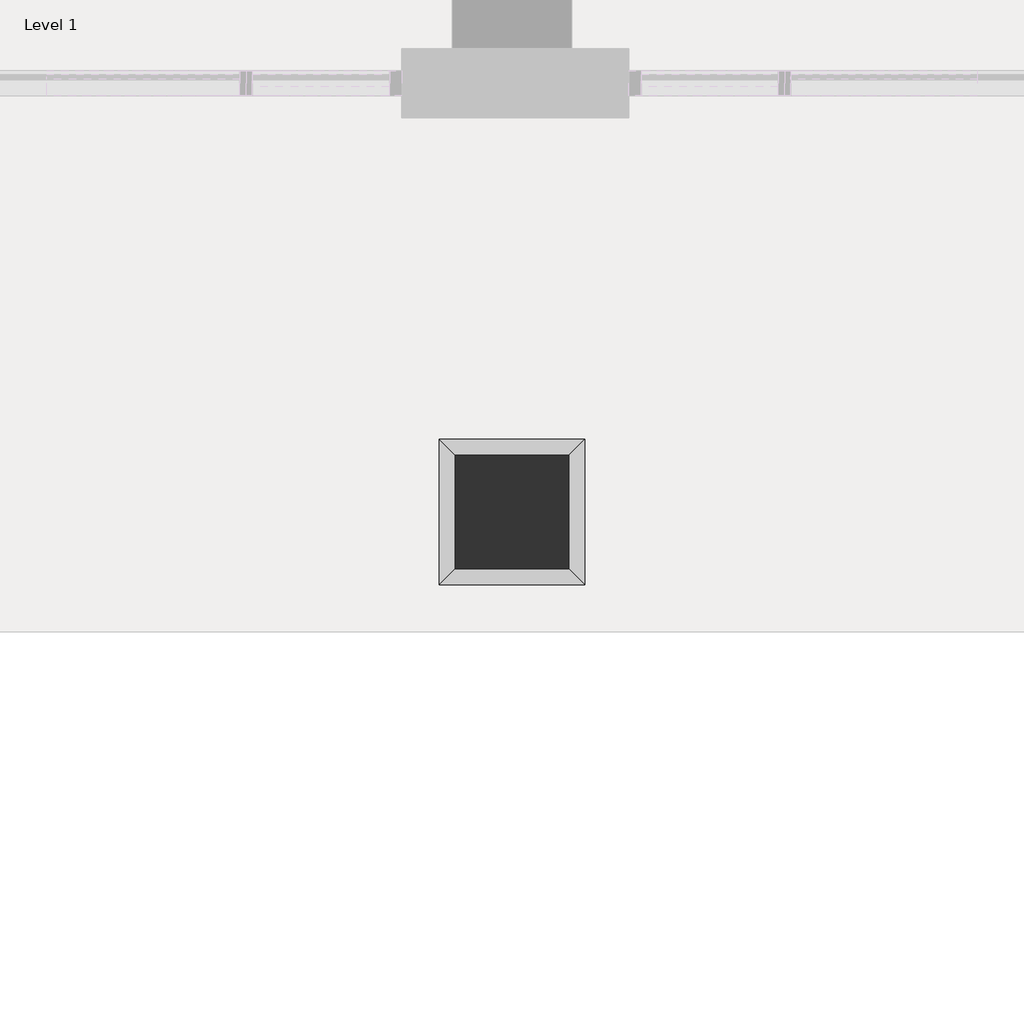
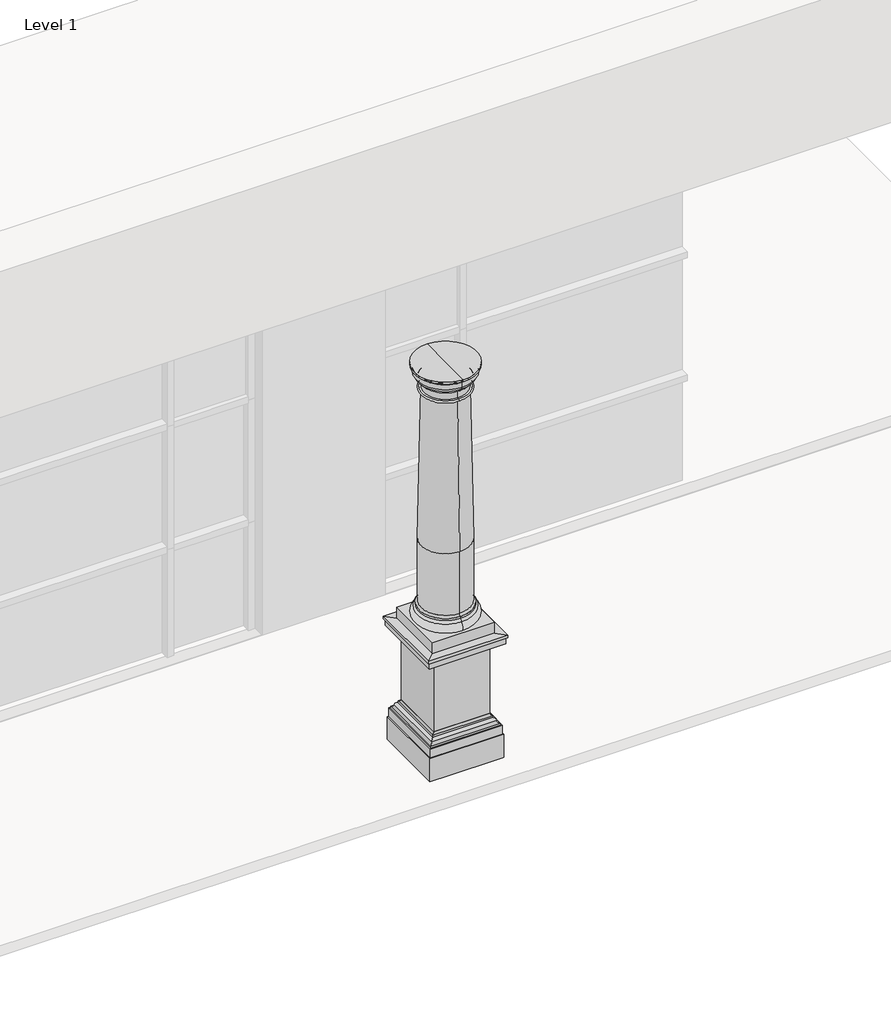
# One storey, part 6 of 8: 1 column.
"""IFC4 building model written with IfcOpenShell, lengths in millimetres."""

from ifc_helpers import new_model, si_unit, point, frame, origin, place, context, project, spatial, polyline, circle_curve, ellipse_curve, trimmed, outline, extrude, faceted_brep, element, save
from ifc_brep_helpers import plane_surface, cylinder_surface, revolved_surface, advanced_brep

model = new_model("IFC4")

# Units and contexts
model_context = context("Model", 3, world=origin())
ifc_project = project(units=[si_unit("LENGTHUNIT", "METRE", prefix="MILLI")], contexts=[model_context])

# Site, building, storey
site = spatial("IfcSite", under=ifc_project)
building = spatial("IfcBuilding", under=site)
storey = spatial("IfcBuildingStorey", under=building, Name="Level 1", Elevation=0.0)

# Column
placement = place(None, origin())
element("IfcColumn", 1, ObjectType="Doric Column : 16'  Height (10 2/3 x Dia.)", at=placement, inside=storey, context=model_context, shape_type="SolidModel", body=[
    extrude(outline(polyline([(10181.1733448, -1720.0769576), (10181.1733448, -2297.9269576), (9603.3233448, -2297.9269576), (9603.3233448, -1720.0769576), (10181.1733448, -1720.0769576)])), frame((0.0, 0.0, 1117.6), z_axis=(0.0, 0.0, 1.0), x_axis=(1.0, 0.0, 0.0)), (0.0, 0.0, 1.0), 107.95),
    faceted_brep([(9663.6483448, -2237.6019576, 1117.6), (9520.7733448, -2380.4769576, 1117.6), (10263.7233448, -2380.4769576, 1117.6), (10120.8483448, -2237.6019576, 1117.6), (9663.6483448, -2237.6019576, 1003.3), (10120.8483448, -2237.6019576, 1003.3), (9592.3654277, -2308.8848746, 1003.3), (10192.1312619, -2308.8848746, 1003.3), (9558.8733448, -2342.3769576, 1028.7), (10225.6233448, -2342.3769576, 1028.7), (9533.4733448, -2367.7769576, 1028.7), (10251.0233448, -2367.7769576, 1028.7), (9533.4733448, -2367.7769576, 1092.2), (10251.0233448, -2367.7769576, 1092.2), (9520.7733448, -2380.4769576, 1092.2), (10263.7233448, -2380.4769576, 1092.2), (10263.7233448, -1637.5269576, 1117.6), (10120.8483448, -1780.4019576, 1117.6), (10120.8483448, -1780.4019576, 1003.3), (10192.1312619, -1709.1190405, 1003.3), (10225.6233448, -1675.6269576, 1028.7), (10251.0233448, -1650.2269576, 1028.7), (10251.0233448, -1650.2269576, 1092.2), (10263.7233448, -1637.5269576, 1092.2), (9520.7733448, -1637.5269576, 1117.6), (9663.6483448, -1780.4019576, 1117.6), (9663.6483448, -1780.4019576, 1003.3), (9592.3654277, -1709.1190405, 1003.3), (9558.8733448, -1675.6269576, 1028.7), (9533.4733448, -1650.2269576, 1028.7), (9533.4733448, -1650.2269576, 1092.2), (9520.7733448, -1637.5269576, 1092.2)], [[[0, 1, 2, 3]], [[4, 0, 3, 5]], [[6, 4, 5, 7]], [[8, 6, 7, 9]], [[10, 8, 9, 11]], [[12, 10, 11, 13]], [[14, 12, 13, 15]], [[1, 14, 15, 2]], [[3, 2, 16, 17]], [[5, 3, 17, 18]], [[7, 5, 18, 19]], [[9, 7, 19, 20]], [[11, 9, 20, 21]], [[13, 11, 21, 22]], [[15, 13, 22, 23]], [[2, 15, 23, 16]], [[17, 16, 24, 25]], [[18, 17, 25, 26]], [[19, 18, 26, 27]], [[20, 19, 27, 28]], [[21, 20, 28, 29]], [[22, 21, 29, 30]], [[23, 22, 30, 31]], [[16, 23, 31, 24]], [[25, 24, 1, 0]], [[26, 25, 0, 4]], [[27, 26, 4, 6]], [[28, 27, 6, 8]], [[29, 28, 8, 10]], [[30, 29, 10, 12]], [[31, 30, 12, 14]], [[24, 31, 14, 1]]]),
    advanced_brep(
    [(9892.2483448, -2256.6519576, 1358.9), (9892.2483448, -1761.3519576, 1358.9), (9892.2483448, -1780.4019576, 1377.95), (9892.2483448, -2237.6019576, 1377.95), (9892.2483448, -1780.4019576, 1989.5041667), (9892.2483448, -2237.6019576, 1989.5041667), (9892.2483448, -2256.6519576, 1339.85), (9892.2483448, -1761.3519576, 1339.85), (9892.2483448, -2256.6519576, 1308.1), (9892.2483448, -1761.3519576, 1308.1), (9892.2483448, -2256.6519576, 1225.55), (9892.2483448, -1761.3519576, 1225.55), (9892.2483448, -2009.0019576, 1225.55), (9892.2483448, -1808.9769576, 3479.3125), (9892.2483448, -2209.0269576, 3479.3125), (9892.2483448, -2301.1019576, 3714.2625601), (9892.2483448, -1716.9019576, 3714.2625601), (9892.2483448, -1716.9019576, 3733.3125), (9892.2483448, -2301.1019576, 3733.3125), (9892.2483448, -2009.0019576, 3733.3125), (9892.2483448, -2282.0518974, 3695.2125), (9892.2483448, -1735.9520177, 3695.2125), (9892.2483448, -2278.8769576, 3695.2125), (9892.2483448, -1739.1269576, 3695.2125), (9892.2483448, -2278.8769576, 3644.4125), (9892.2483448, -1739.1269576, 3644.4125), (9892.2483448, -2272.5269576, 3644.4125), (9892.2483448, -1745.4769576, 3644.4125), (9892.2483448, -2228.0769576, 3599.9625), (9892.2483448, -1789.9269576, 3599.9625), (9892.2483448, -2228.0769576, 3580.9125), (9892.2483448, -1789.9269576, 3580.9125), (9892.2483448, -2209.0269576, 3580.9125), (9892.2483448, -1808.9769576, 3580.9125), (9892.2483448, -2209.0269576, 3498.3625), (9892.2483448, -1808.9769576, 3498.3625), (9892.2483448, -2228.0769576, 3498.3625), (9892.2483448, -1789.9269576, 3498.3625), (9892.2483448, -2228.0769576, 3479.3125), (9892.2483448, -1789.9269576, 3479.3125)],
    [
        (0, 1, circle_curve(frame((9892.2483448, -2009.0019576, 1358.9), z_axis=(0.0, 0.0, 1.0), x_axis=(0.0, 1.0, 0.0)), 247.65)),
        (1, 2, circle_curve(frame((9892.2483448, -1761.3519576, 1377.95), z_axis=(-1.0, 0.0, 0.0), x_axis=(0.0, -1.0, 0.0)), 19.05)),
        (2, 3, circle_curve(frame((9892.2483448, -2009.0019576, 1377.95), z_axis=(0.0, 0.0, -1.0), x_axis=(0.0, 1.0, 0.0)), 228.6)),
        (3, 0, circle_curve(frame((9892.2483448, -2256.6519576, 1377.95), z_axis=(-1.0, 0.0, 0.0), x_axis=(0.0, 1.0, 0.0)), 19.05)),
        (2, 4),
        (4, 5, circle_curve(frame((9892.2483448, -2009.0019576, 1989.5041667), z_axis=(0.0, 0.0, -1.0), x_axis=(0.0, 1.0, 0.0)), 228.6)),
        (5, 3),
        (2, 3, circle_curve(frame((9892.2483448, -2009.0019576, 1377.95), z_axis=(0.0, 0.0, 1.0), x_axis=(0.0, 1.0, 0.0)), 228.6)),
        (5, 4, circle_curve(frame((9892.2483448, -2009.0019576, 1989.5041667), z_axis=(0.0, 0.0, -1.0), x_axis=(0.0, 1.0, 0.0)), 228.6)),
        (1, 0, circle_curve(frame((9892.2483448, -2009.0019576, 1358.9), z_axis=(0.0, 0.0, 1.0), x_axis=(0.0, 1.0, 0.0)), 247.65)),
        (6, 7, circle_curve(frame((9892.2483448, -2009.0019576, 1339.85), z_axis=(0.0, 0.0, 1.0), x_axis=(0.0, 1.0, 0.0)), 247.65)),
        (7, 1),
        (0, 6),
        (7, 6, circle_curve(frame((9892.2483448, -2009.0019576, 1339.85), z_axis=(0.0, 0.0, 1.0), x_axis=(0.0, 1.0, 0.0)), 247.65)),
        (8, 9, circle_curve(frame((9892.2483448, -2009.0019576, 1308.1), z_axis=(0.0, 0.0, 1.0), x_axis=(0.0, 1.0, 0.0)), 247.65)),
        (9, 7, circle_curve(frame((9892.2483448, -1761.3519576, 1323.975), z_axis=(1.0, 0.0, 0.0), x_axis=(0.0, -1.0, 0.0)), 15.875)),
        (6, 8, circle_curve(frame((9892.2483448, -2256.6519576, 1323.975), z_axis=(1.0, 0.0, 0.0), x_axis=(0.0, 1.0, 0.0)), 15.875)),
        (9, 8, circle_curve(frame((9892.2483448, -2009.0019576, 1308.1), z_axis=(0.0, 0.0, 1.0), x_axis=(0.0, 1.0, 0.0)), 247.65)),
        (10, 11, circle_curve(frame((9892.2483448, -2009.0019576, 1225.55), z_axis=(0.0, 0.0, 1.0), x_axis=(0.0, 1.0, 0.0)), 247.65)),
        (11, 9, circle_curve(frame((9892.2483448, -1761.3519576, 1266.825), z_axis=(1.0, 0.0, 0.0), x_axis=(0.0, -1.0, 0.0)), 41.275)),
        (8, 10, circle_curve(frame((9892.2483448, -2256.6519576, 1266.825), z_axis=(1.0, 0.0, 0.0), x_axis=(0.0, 1.0, 0.0)), 41.275)),
        (11, 10, circle_curve(frame((9892.2483448, -2009.0019576, 1225.55), z_axis=(0.0, 0.0, 1.0), x_axis=(0.0, 1.0, 0.0)), 247.65)),
        (12, 11),
        (10, 12),
        (4, 13),
        (13, 14, circle_curve(frame((9892.2483448, -2009.0019576, 3479.3125), z_axis=(0.0, 0.0, -1.0), x_axis=(0.0, 1.0, 0.0)), 200.025)),
        (14, 5),
        (14, 13, circle_curve(frame((9892.2483448, -2009.0019576, 3479.3125), z_axis=(0.0, 0.0, -1.0), x_axis=(0.0, 1.0, 0.0)), 200.025)),
        (15, 16, circle_curve(frame((9892.2483448, -2009.0019576, 3714.2625601), z_axis=(0.0, 0.0, 1.0), x_axis=(0.0, 1.0, 0.0)), 292.1)),
        (16, 17),
        (17, 18, circle_curve(frame((9892.2483448, -2009.0019576, 3733.3125), z_axis=(0.0, 0.0, -1.0), x_axis=(0.0, 1.0, 0.0)), 292.1)),
        (18, 15),
        (17, 19),
        (19, 18),
        (17, 18, circle_curve(frame((9892.2483448, -2009.0019576, 3733.3125), z_axis=(0.0, 0.0, 1.0), x_axis=(0.0, 1.0, 0.0)), 292.1)),
        (16, 15, circle_curve(frame((9892.2483448, -2009.0019576, 3714.2625601), z_axis=(0.0, 0.0, 1.0), x_axis=(0.0, 1.0, 0.0)), 292.1)),
        (20, 21, circle_curve(frame((9892.2483448, -2009.0019576, 3695.2125), z_axis=(0.0, 0.0, 1.0), x_axis=(0.0, 1.0, 0.0)), 273.0499399)),
        (21, 16, circle_curve(frame((9892.2483448, -1716.9019576, 3695.2125), z_axis=(-1.0, 0.0, 0.0), x_axis=(0.0, -1.0, 0.0)), 19.0500601)),
        (15, 20, circle_curve(frame((9892.2483448, -2301.1019576, 3695.2125), z_axis=(-1.0, 0.0, 0.0), x_axis=(0.0, 1.0, 0.0)), 19.0500601)),
        (21, 20, circle_curve(frame((9892.2483448, -2009.0019576, 3695.2125), z_axis=(0.0, 0.0, 1.0), x_axis=(0.0, 1.0, 0.0)), 273.0499399)),
        (22, 23, circle_curve(frame((9892.2483448, -2009.0019576, 3695.2125), z_axis=(0.0, 0.0, 1.0), x_axis=(0.0, 1.0, 0.0)), 269.875)),
        (23, 21),
        (20, 22),
        (23, 22, circle_curve(frame((9892.2483448, -2009.0019576, 3695.2125), z_axis=(0.0, 0.0, 1.0), x_axis=(0.0, 1.0, 0.0)), 269.875)),
        (24, 25, circle_curve(frame((9892.2483448, -2009.0019576, 3644.4125), z_axis=(0.0, 0.0, 1.0), x_axis=(0.0, 1.0, 0.0)), 269.875)),
        (25, 23),
        (22, 24),
        (25, 24, circle_curve(frame((9892.2483448, -2009.0019576, 3644.4125), z_axis=(0.0, 0.0, 1.0), x_axis=(0.0, 1.0, 0.0)), 269.875)),
        (26, 27, circle_curve(frame((9892.2483448, -2009.0019576, 3644.4125), z_axis=(0.0, 0.0, 1.0), x_axis=(0.0, 1.0, 0.0)), 263.525)),
        (27, 25),
        (24, 26),
        (27, 26, circle_curve(frame((9892.2483448, -2009.0019576, 3644.4125), z_axis=(0.0, 0.0, 1.0), x_axis=(0.0, 1.0, 0.0)), 263.525)),
        (28, 29, circle_curve(frame((9892.2483448, -2009.0019576, 3599.9625), z_axis=(0.0, 0.0, 1.0), x_axis=(0.0, 1.0, 0.0)), 219.075)),
        (29, 27, circle_curve(frame((9892.2483448, -1789.9269576, 3644.4125), z_axis=(1.0, 0.0, 0.0), x_axis=(0.0, -1.0, 0.0)), 44.45)),
        (26, 28, circle_curve(frame((9892.2483448, -2228.0769576, 3644.4125), z_axis=(1.0, 0.0, 0.0), x_axis=(0.0, 1.0, 0.0)), 44.45)),
        (29, 28, circle_curve(frame((9892.2483448, -2009.0019576, 3599.9625), z_axis=(0.0, 0.0, 1.0), x_axis=(0.0, 1.0, 0.0)), 219.075)),
        (30, 31, circle_curve(frame((9892.2483448, -2009.0019576, 3580.9125), z_axis=(0.0, 0.0, 1.0), x_axis=(0.0, 1.0, 0.0)), 219.075)),
        (31, 29, circle_curve(frame((9892.2483448, -1789.9269576, 3590.4375), z_axis=(1.0, 0.0, 0.0), x_axis=(0.0, -1.0, 0.0)), 9.525)),
        (28, 30, circle_curve(frame((9892.2483448, -2228.0769576, 3590.4375), z_axis=(1.0, 0.0, 0.0), x_axis=(0.0, 1.0, 0.0)), 9.525)),
        (31, 30, circle_curve(frame((9892.2483448, -2009.0019576, 3580.9125), z_axis=(0.0, 0.0, 1.0), x_axis=(0.0, 1.0, 0.0)), 219.075)),
        (32, 33, circle_curve(frame((9892.2483448, -2009.0019576, 3580.9125), z_axis=(0.0, 0.0, 1.0), x_axis=(0.0, 1.0, 0.0)), 200.025)),
        (33, 31),
        (30, 32),
        (33, 32, circle_curve(frame((9892.2483448, -2009.0019576, 3580.9125), z_axis=(0.0, 0.0, 1.0), x_axis=(0.0, 1.0, 0.0)), 200.025)),
        (34, 35, circle_curve(frame((9892.2483448, -2009.0019576, 3498.3625), z_axis=(0.0, 0.0, 1.0), x_axis=(0.0, 1.0, 0.0)), 200.025)),
        (35, 33),
        (32, 34),
        (35, 34, circle_curve(frame((9892.2483448, -2009.0019576, 3498.3625), z_axis=(0.0, 0.0, 1.0), x_axis=(0.0, 1.0, 0.0)), 200.025)),
        (36, 37, circle_curve(frame((9892.2483448, -2009.0019576, 3498.3625), z_axis=(0.0, 0.0, 1.0), x_axis=(0.0, 1.0, 0.0)), 219.075)),
        (37, 35),
        (34, 36),
        (37, 36, circle_curve(frame((9892.2483448, -2009.0019576, 3498.3625), z_axis=(0.0, 0.0, 1.0), x_axis=(0.0, 1.0, 0.0)), 219.075)),
        (38, 39, circle_curve(frame((9892.2483448, -2009.0019576, 3479.3125), z_axis=(0.0, 0.0, 1.0), x_axis=(0.0, 1.0, 0.0)), 219.075)),
        (39, 37, circle_curve(frame((9892.2483448, -1789.9269576, 3488.8375), z_axis=(1.0, 0.0, 0.0), x_axis=(0.0, -1.0, 0.0)), 9.525)),
        (36, 38, circle_curve(frame((9892.2483448, -2228.0769576, 3488.8375), z_axis=(1.0, 0.0, 0.0), x_axis=(0.0, 1.0, 0.0)), 9.525)),
        (39, 38, circle_curve(frame((9892.2483448, -2009.0019576, 3479.3125), z_axis=(0.0, 0.0, 1.0), x_axis=(0.0, 1.0, 0.0)), 219.075)),
        (13, 39),
        (38, 14),
    ],
    [
        revolved_surface(trimmed(ellipse_curve(frame((9892.2483448, -1761.3519576, 1377.95), z_axis=(1.0, 0.0, 0.0), x_axis=(0.0, -1.0, 0.0)), 19.05, 19.05), [point((9892.2483448, -1780.4019576, 1377.95))], [point((9892.2483448, -1761.3519576, 1358.9))], True, "CARTESIAN"), (9892.2483448, -2009.0019576, 3733.3125), (0.0, 0.0, -1.0)),
        cylinder_surface(frame((9892.2483448, -2009.0019576, 3733.3125), z_axis=(0.0, 0.0, -1.0), x_axis=(0.0, 1.0, 0.0)), 228.6),
        cylinder_surface(frame((9892.2483448, -2009.0019576, 3733.3125), z_axis=(0.0, 0.0, -1.0), x_axis=(0.0, 1.0, 0.0)), 247.65),
        revolved_surface(trimmed(ellipse_curve(frame((9892.2483448, -1761.3519576, 1323.975), z_axis=(-1.0, 0.0, 0.0), x_axis=(0.0, -1.0, 0.0)), 15.875, 15.875), [point((9892.2483448, -1761.3519576, 1339.85))], [point((9892.2483448, -1761.3519576, 1308.1))], True, "CARTESIAN"), (9892.2483448, -2009.0019576, 3733.3125), (0.0, 0.0, -1.0)),
        revolved_surface(trimmed(ellipse_curve(frame((9892.2483448, -1761.3519576, 1266.825), z_axis=(-1.0, 0.0, 0.0), x_axis=(0.0, -1.0, 0.0)), 41.275, 41.275), [point((9892.2483448, -1761.3519576, 1308.1))], [point((9892.2483448, -1761.3519576, 1225.55))], True, "CARTESIAN"), (9892.2483448, -2009.0019576, 3733.3125), (0.0, 0.0, -1.0)),
        plane_surface(frame((9892.2483448, -2009.0019576, 1225.55), z_axis=(0.0, 0.0, -1.0), x_axis=(0.0, 1.0, 0.0))),
        revolved_surface(polyline([(9892.2483448, -1808.9769576, 3479.3125), (9892.2483448, -1780.4019576, 1989.5041667)]), (9892.2483448, -2009.0019576, 3733.3125), (0.0, 0.0, -1.0)),
        cylinder_surface(frame((9892.2483448, -2009.0019576, 3733.3125), z_axis=(0.0, 0.0, -1.0), x_axis=(0.0, 1.0, 0.0)), 292.1),
        plane_surface(frame((9892.2483448, -2009.0019576, 3733.3125), z_axis=(0.0, 0.0, 1.0), x_axis=(0.0, 1.0, 0.0))),
        revolved_surface(trimmed(ellipse_curve(frame((9892.2483448, -1716.9019576, 3695.2125), z_axis=(1.0, 0.0, 0.0), x_axis=(0.0, -1.0, 0.0)), 19.0500601, 19.0500601), [point((9892.2483448, -1716.9019576, 3714.2625601))], [point((9892.2483448, -1735.9520177, 3695.2125))], True, "CARTESIAN"), (9892.2483448, -2009.0019576, 3733.3125), (0.0, 0.0, -1.0)),
        plane_surface(frame((9892.2483448, -2009.0019576, 3695.2125), z_axis=(0.0, 0.0, -1.0), x_axis=(0.0, 1.0, 0.0))),
        cylinder_surface(frame((9892.2483448, -2009.0019576, 3733.3125), z_axis=(0.0, 0.0, -1.0), x_axis=(0.0, 1.0, 0.0)), 269.875),
        plane_surface(frame((9892.2483448, -2009.0019576, 3644.4125), z_axis=(0.0, 0.0, -1.0), x_axis=(0.0, 1.0, 0.0))),
        revolved_surface(trimmed(ellipse_curve(frame((9892.2483448, -1789.9269576, 3644.4125), z_axis=(-1.0, 0.0, 0.0), x_axis=(0.0, -1.0, 0.0)), 44.45, 44.45), [point((9892.2483448, -1745.4769576, 3644.4125))], [point((9892.2483448, -1789.9269576, 3599.9625))], True, "CARTESIAN"), (9892.2483448, -2009.0019576, 3733.3125), (0.0, 0.0, -1.0)),
        revolved_surface(trimmed(ellipse_curve(frame((9892.2483448, -1789.9269576, 3590.4375), z_axis=(-1.0, 0.0, 0.0), x_axis=(0.0, -1.0, 0.0)), 9.525, 9.525), [point((9892.2483448, -1789.9269576, 3599.9625))], [point((9892.2483448, -1789.9269576, 3580.9125))], True, "CARTESIAN"), (9892.2483448, -2009.0019576, 3733.3125), (0.0, 0.0, -1.0)),
        plane_surface(frame((9892.2483448, -2009.0019576, 3580.9125), z_axis=(0.0, 0.0, -1.0), x_axis=(0.0, 1.0, 0.0))),
        cylinder_surface(frame((9892.2483448, -2009.0019576, 3733.3125), z_axis=(0.0, 0.0, -1.0), x_axis=(0.0, 1.0, 0.0)), 200.025),
        plane_surface(frame((9892.2483448, -2009.0019576, 3498.3625), z_axis=(0.0, 0.0, 1.0), x_axis=(0.0, 1.0, 0.0))),
        revolved_surface(trimmed(ellipse_curve(frame((9892.2483448, -1789.9269576, 3488.8375), z_axis=(-1.0, 0.0, 0.0), x_axis=(0.0, -1.0, 0.0)), 9.525, 9.525), [point((9892.2483448, -1789.9269576, 3498.3625))], [point((9892.2483448, -1789.9269576, 3479.3125))], True, "CARTESIAN"), (9892.2483448, -2009.0019576, 3733.3125), (0.0, 0.0, -1.0)),
        plane_surface(frame((9892.2483448, -2009.0019576, 3479.3125), z_axis=(0.0, 0.0, -1.0), x_axis=(0.0, 1.0, 0.0))),
    ],
    [
        (0, [[1, 2, 3, 4]]),
        (1, [[-3, 5, 6, 7]]),
        (1, [[8, -7, 9, -5]]),
        (0, [[10, -4, -8, -2]]),
        (2, [[11, 12, -1, 13]]),
        (2, [[14, -13, -10, -12]]),
        (3, [[15, 16, -11, 17]]),
        (3, [[18, -17, -14, -16]]),
        (4, [[19, 20, -15, 21]]),
        (4, [[22, -21, -18, -20]]),
        (5, [[23, -19, 24]]),
        (5, [[-24, -22, -23]]),
        (6, [[-6, 25, 26, 27]]),
        (6, [[-9, -27, 28, -25]]),
        (7, [[29, 30, 31, 32]]),
        (8, [[-31, 33, 34]]),
        (8, [[35, -34, -33]]),
        (7, [[36, -32, -35, -30]]),
        (9, [[37, 38, -29, 39]]),
        (9, [[40, -39, -36, -38]]),
        (10, [[41, 42, -37, 43]]),
        (10, [[44, -43, -40, -42]]),
        (11, [[45, 46, -41, 47]]),
        (11, [[48, -47, -44, -46]]),
        (12, [[49, 50, -45, 51]]),
        (12, [[52, -51, -48, -50]]),
        (13, [[53, 54, -49, 55]]),
        (13, [[56, -55, -52, -54]]),
        (14, [[57, 58, -53, 59]]),
        (14, [[60, -59, -56, -58]]),
        (15, [[61, 62, -57, 63]]),
        (15, [[64, -63, -60, -62]]),
        (16, [[65, 66, -61, 67]]),
        (16, [[68, -67, -64, -66]]),
        (17, [[69, 70, -65, 71]]),
        (17, [[72, -71, -68, -70]]),
        (18, [[73, 74, -69, 75]]),
        (18, [[76, -75, -72, -74]]),
        (19, [[-26, 77, -73, 78]]),
        (19, [[-28, -78, -76, -77]]),
    ],
),
    advanced_brep(
    [(10237.6934911, -1663.5568112, -101.6), (10237.6934911, -1663.5568112, 127.0), (10237.6934911, -2354.4471039, 127.0), (10237.6934911, -2354.4471039, -101.6), (10120.8483448, -1780.4019576, -101.6), (10120.8483448, -2237.6019576, -101.6), (10120.8483448, -1780.4019576, 317.5), (10120.8483448, -2237.6019576, 317.5), (10155.1434911, -1746.1068112, 317.5), (10155.1434911, -2271.8971039, 317.5), (10174.1934911, -1727.0568112, 298.45), (10174.1934911, -2290.9471039, 298.45), (10174.1934911, -1727.0568112, 279.4), (10174.1934911, -2290.9471039, 279.4), (10196.4184911, -1704.8318112, 257.175), (10196.4184911, -2313.1721039, 257.175), (10218.6434911, -1682.6068112, 234.95), (10218.6434911, -2335.3971039, 234.95), (10218.6434911, -1682.6068112, 215.9), (10218.6434911, -2335.3971039, 215.9), (10228.1684911, -1673.0818112, 215.9), (10228.1684911, -2344.9221039, 215.9), (10228.1684911, -1673.0818112, 127.0), (10228.1684911, -2344.9221039, 127.0), (9546.8031985, -2354.4471039, 127.0), (9546.8031985, -2354.4471039, -101.6), (9663.6483448, -2237.6019576, -101.6), (9663.6483448, -2237.6019576, 317.5), (9629.3531985, -2271.8971039, 317.5), (9610.3031985, -2290.9471039, 298.45), (9610.3031985, -2290.9471039, 279.4), (9588.0781985, -2313.1721039, 257.175), (9565.8531985, -2335.3971039, 234.95), (9565.8531985, -2335.3971039, 215.9), (9556.3281985, -2344.9221039, 215.9), (9556.3281985, -2344.9221039, 127.0), (9546.8031985, -1663.5568112, 127.0), (9546.8031985, -1663.5568112, -101.6), (9663.6483448, -1780.4019576, -101.6), (9663.6483448, -1780.4019576, 317.5), (9629.3531985, -1746.1068112, 317.5), (9610.3031985, -1727.0568112, 298.45), (9610.3031985, -1727.0568112, 279.4), (9588.0781985, -1704.8318112, 257.175), (9565.8531985, -1682.6068112, 234.95), (9565.8531985, -1682.6068112, 215.9), (9556.3281985, -1673.0818112, 215.9), (9556.3281985, -1673.0818112, 127.0)],
    [
        (0, 1),
        (1, 2),
        (2, 3),
        (3, 0),
        (4, 0),
        (3, 5),
        (5, 4),
        (6, 4),
        (5, 7),
        (7, 6),
        (8, 6),
        (7, 9),
        (9, 8),
        (10, 8, ellipse_curve(frame((10174.1934911, -1727.0568112, 317.5), z_axis=(-0.7071067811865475, 0.7071067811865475, 0.0), x_axis=(-0.7071067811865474, -0.7071067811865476, 0.0)), 26.9407684, 19.05)),
        (9, 11, ellipse_curve(frame((10174.1934911, -2290.9471039, 317.5), z_axis=(-0.7071067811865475, -0.7071067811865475, 0.0), x_axis=(0.7071067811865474, -0.7071067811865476, 0.0)), 26.9407684, 19.05)),
        (11, 10),
        (12, 10),
        (11, 13),
        (13, 12),
        (14, 12, ellipse_curve(frame((10174.1934911, -1727.0568112, 257.175), z_axis=(0.7071067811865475, -0.7071067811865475, 0.0), x_axis=(0.7071067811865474, 0.7071067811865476, 0.0)), 31.4308964, 22.225)),
        (13, 15, ellipse_curve(frame((10174.1934911, -2290.9471039, 257.175), z_axis=(0.7071067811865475, 0.7071067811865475, 0.0), x_axis=(-0.7071067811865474, 0.7071067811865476, 0.0)), 31.4308964, 22.225)),
        (15, 14),
        (16, 14, ellipse_curve(frame((10218.6434911, -1682.6068112, 257.175), z_axis=(-0.7071067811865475, 0.7071067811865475, 0.0), x_axis=(-0.7071067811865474, -0.7071067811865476, 0.0)), 31.4308964, 22.225)),
        (15, 17, ellipse_curve(frame((10218.6434911, -2335.3971039, 257.175), z_axis=(-0.7071067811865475, -0.7071067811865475, 0.0), x_axis=(0.7071067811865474, -0.7071067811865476, 0.0)), 31.4308964, 22.225)),
        (17, 16),
        (18, 16),
        (17, 19),
        (19, 18),
        (20, 18),
        (19, 21),
        (21, 20),
        (22, 20),
        (21, 23),
        (23, 22),
        (1, 22),
        (23, 2),
        (2, 24),
        (24, 25),
        (25, 3),
        (25, 26),
        (26, 5),
        (26, 27),
        (27, 7),
        (27, 28),
        (28, 9),
        (28, 29, ellipse_curve(frame((9610.3031985, -2290.9471039, 317.5), z_axis=(-0.7071067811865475, 0.7071067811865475, 0.0), x_axis=(-0.7071067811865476, -0.7071067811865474, 0.0)), 26.9407684, 19.05)),
        (29, 11),
        (29, 30),
        (30, 13),
        (30, 31, ellipse_curve(frame((9610.3031985, -2290.9471039, 257.175), z_axis=(0.7071067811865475, -0.7071067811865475, 0.0), x_axis=(0.7071067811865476, 0.7071067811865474, 0.0)), 31.4308964, 22.225)),
        (31, 15),
        (31, 32, ellipse_curve(frame((9565.8531985, -2335.3971039, 257.175), z_axis=(-0.7071067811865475, 0.7071067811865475, 0.0), x_axis=(-0.7071067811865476, -0.7071067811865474, 0.0)), 31.4308964, 22.225)),
        (32, 17),
        (32, 33),
        (33, 19),
        (33, 34),
        (34, 21),
        (34, 35),
        (35, 23),
        (35, 24),
        (24, 36),
        (36, 37),
        (37, 25),
        (37, 38),
        (38, 26),
        (38, 39),
        (39, 27),
        (39, 40),
        (40, 28),
        (40, 41, ellipse_curve(frame((9610.3031985, -1727.0568112, 317.5), z_axis=(0.7071067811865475, 0.7071067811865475, 0.0), x_axis=(-0.7071067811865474, 0.7071067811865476, 0.0)), 26.9407684, 19.05)),
        (41, 29),
        (41, 42),
        (42, 30),
        (42, 43, ellipse_curve(frame((9610.3031985, -1727.0568112, 257.175), z_axis=(-0.7071067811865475, -0.7071067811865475, 0.0), x_axis=(0.7071067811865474, -0.7071067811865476, 0.0)), 31.4308964, 22.225)),
        (43, 31),
        (43, 44, ellipse_curve(frame((9565.8531985, -1682.6068112, 257.175), z_axis=(0.7071067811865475, 0.7071067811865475, 0.0), x_axis=(-0.7071067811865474, 0.7071067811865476, 0.0)), 31.4308964, 22.225)),
        (44, 32),
        (44, 45),
        (45, 33),
        (45, 46),
        (46, 34),
        (46, 47),
        (47, 35),
        (47, 36),
        (36, 1),
        (0, 37),
        (4, 38),
        (6, 39),
        (8, 40),
        (10, 41),
        (12, 42),
        (14, 43),
        (16, 44),
        (18, 45),
        (20, 46),
        (22, 47),
    ],
    [
        plane_surface(frame((10237.6934911, -1663.5568112, 127.0), z_axis=(1.0, 0.0, 0.0), x_axis=(0.0, -1.0, 0.0))),
        plane_surface(frame((10237.6934911, -1663.5568112, -101.6), z_axis=(0.0, 0.0, -1.0), x_axis=(0.0, -1.0, 0.0))),
        plane_surface(frame((10120.8483448, -1780.4019576, -101.6), z_axis=(-1.0, 0.0, 0.0), x_axis=(0.0, -1.0, 0.0))),
        plane_surface(frame((10120.8483448, -1780.4019576, 317.5), z_axis=(0.0, 0.0, 1.0), x_axis=(0.0, -1.0, 0.0))),
        revolved_surface(polyline([(10193.2434911, -2309.9971039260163, 317.5), (10193.2434911, -1708.0068111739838, 317.5)]), (10174.1934911, -1650.5418844, 317.5), (0.0, -1.0, 0.0)),
        plane_surface(frame((10174.1934911, -1727.0568112, 298.45), z_axis=(1.0, 0.0, 0.0), x_axis=(0.0, -1.0, 0.0))),
        cylinder_surface(frame((10174.1934911, -1650.5418844, 257.175), z_axis=(0.0, 1.0, 0.0), x_axis=(1.0, 0.0, 0.0)), 22.225),
        revolved_surface(polyline([(10240.8684911, -2357.622103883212, 257.175), (10240.8684911, -1660.3818112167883, 257.175)]), (10218.6434911, -1650.5418844, 257.175), (0.0, -1.0, 0.0)),
        plane_surface(frame((10218.6434911, -1682.6068112, 234.95), z_axis=(1.0, 0.0, 0.0), x_axis=(0.0, -1.0, 0.0))),
        plane_surface(frame((10218.6434911, -1682.6068112, 215.9), z_axis=(0.0, 0.0, 1.0), x_axis=(0.0, -1.0, 0.0))),
        plane_surface(frame((10228.1684911, -1673.0818112, 215.9), z_axis=(1.0, 0.0, 0.0), x_axis=(0.0, -1.0, 0.0))),
        plane_surface(frame((10228.1684911, -1673.0818112, 127.0), z_axis=(0.0, 0.0, 1.0), x_axis=(0.0, -1.0, 0.0))),
        plane_surface(frame((10237.6934911, -2354.4471039, 127.0), z_axis=(0.0, -1.0, 0.0), x_axis=(-1.0, 0.0, 0.0))),
        plane_surface(frame((10237.6934911, -2354.4471039, -101.6), z_axis=(0.0, 0.0, -1.0), x_axis=(-1.0, 0.0, 0.0))),
        plane_surface(frame((10120.8483448, -2237.6019576, -101.6), z_axis=(0.0, 1.0, 0.0), x_axis=(-1.0, 0.0, 0.0))),
        plane_surface(frame((10120.8483448, -2237.6019576, 317.5), z_axis=(0.0, 0.0, 1.0), x_axis=(-1.0, 0.0, 0.0))),
        revolved_surface(polyline([(9591.253198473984, -2309.9971039, 317.5), (10193.243491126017, -2309.9971039, 317.5)]), (10250.708418, -2290.9471039, 317.5), (-1.0, 0.0, 0.0)),
        plane_surface(frame((10174.1934911, -2290.9471039, 298.45), z_axis=(0.0, -1.0, 0.0), x_axis=(-1.0, 0.0, 0.0))),
        cylinder_surface(frame((10250.708418, -2290.9471039, 257.175), z_axis=(1.0, 0.0, 0.0), x_axis=(0.0, -1.0, 0.0)), 22.225),
        revolved_surface(polyline([(9543.62819851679, -2357.6221038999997, 257.175), (10240.86849108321, -2357.6221038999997, 257.175)]), (10250.708418, -2335.3971039, 257.175), (-1.0, 0.0, 0.0)),
        plane_surface(frame((10218.6434911, -2335.3971039, 234.95), z_axis=(0.0, -1.0, 0.0), x_axis=(-1.0, 0.0, 0.0))),
        plane_surface(frame((10218.6434911, -2335.3971039, 215.9), z_axis=(0.0, 0.0, 1.0), x_axis=(-1.0, 0.0, 0.0))),
        plane_surface(frame((10228.1684911, -2344.9221039, 215.9), z_axis=(0.0, -1.0, 0.0), x_axis=(-1.0, 0.0, 0.0))),
        plane_surface(frame((10228.1684911, -2344.9221039, 127.0), z_axis=(0.0, 0.0, 1.0), x_axis=(-1.0, 0.0, 0.0))),
        plane_surface(frame((9546.8031985, -2354.4471039, 127.0), z_axis=(-1.0, 0.0, 0.0), x_axis=(0.0, 1.0, 0.0))),
        plane_surface(frame((9546.8031985, -2354.4471039, -101.6), z_axis=(0.0, 0.0, -1.0), x_axis=(0.0, 1.0, 0.0))),
        plane_surface(frame((9663.6483448, -2237.6019576, -101.6), z_axis=(1.0, 0.0, 0.0), x_axis=(0.0, 1.0, 0.0))),
        plane_surface(frame((9663.6483448, -2237.6019576, 317.5), z_axis=(0.0, 0.0, 1.0), x_axis=(0.0, 1.0, 0.0))),
        revolved_surface(polyline([(9591.2531985, -1708.0068111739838, 317.5), (9591.2531985, -2309.9971039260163, 317.5)]), (9610.3031985, -2367.4620307, 317.5), (0.0, 1.0, 0.0)),
        plane_surface(frame((9610.3031985, -2290.9471039, 298.45), z_axis=(-1.0, 0.0, 0.0), x_axis=(0.0, 1.0, 0.0))),
        cylinder_surface(frame((9610.3031985, -2367.4620307, 257.175), z_axis=(0.0, -1.0, 0.0), x_axis=(-1.0, 0.0, 0.0)), 22.225),
        revolved_surface(polyline([(9543.6281985, -1660.3818112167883, 257.175), (9543.6281985, -2357.622103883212, 257.175)]), (9565.8531985, -2367.4620307, 257.175), (0.0, 1.0, 0.0)),
        plane_surface(frame((9565.8531985, -2335.3971039, 234.95), z_axis=(-1.0, 0.0, 0.0), x_axis=(0.0, 1.0, 0.0))),
        plane_surface(frame((9565.8531985, -2335.3971039, 215.9), z_axis=(0.0, 0.0, 1.0), x_axis=(0.0, 1.0, 0.0))),
        plane_surface(frame((9556.3281985, -2344.9221039, 215.9), z_axis=(-1.0, 0.0, 0.0), x_axis=(0.0, 1.0, 0.0))),
        plane_surface(frame((9556.3281985, -2344.9221039, 127.0), z_axis=(0.0, 0.0, 1.0), x_axis=(0.0, 1.0, 0.0))),
        plane_surface(frame((9546.8031985, -1663.5568112, 127.0), z_axis=(0.0, 1.0, 0.0), x_axis=(1.0, 0.0, 0.0))),
        plane_surface(frame((9546.8031985, -1663.5568112, -101.6), z_axis=(0.0, 0.0, -1.0), x_axis=(1.0, 0.0, 0.0))),
        plane_surface(frame((9663.6483448, -1780.4019576, -101.6), z_axis=(0.0, -1.0, 0.0), x_axis=(1.0, 0.0, 0.0))),
        plane_surface(frame((9663.6483448, -1780.4019576, 317.5), z_axis=(0.0, 0.0, 1.0), x_axis=(1.0, 0.0, 0.0))),
        revolved_surface(polyline([(10193.243491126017, -1708.0068112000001, 317.5), (9591.253198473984, -1708.0068112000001, 317.5)]), (9533.7882717, -1727.0568112, 317.5), (1.0, 0.0, 0.0)),
        plane_surface(frame((9610.3031985, -1727.0568112, 298.45), z_axis=(0.0, 1.0, 0.0), x_axis=(1.0, 0.0, 0.0))),
        cylinder_surface(frame((9533.7882717, -1727.0568112, 257.175), z_axis=(-1.0, 0.0, 0.0), x_axis=(0.0, 1.0, 0.0)), 22.225),
        revolved_surface(polyline([(10240.86849108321, -1660.3818112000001, 257.175), (9543.62819851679, -1660.3818112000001, 257.175)]), (9533.7882717, -1682.6068112, 257.175), (1.0, 0.0, 0.0)),
        plane_surface(frame((9565.8531985, -1682.6068112, 234.95), z_axis=(0.0, 1.0, 0.0), x_axis=(1.0, 0.0, 0.0))),
        plane_surface(frame((9565.8531985, -1682.6068112, 215.9), z_axis=(0.0, 0.0, 1.0), x_axis=(1.0, 0.0, 0.0))),
        plane_surface(frame((9556.3281985, -1673.0818112, 215.9), z_axis=(0.0, 1.0, 0.0), x_axis=(1.0, 0.0, 0.0))),
        plane_surface(frame((9556.3281985, -1673.0818112, 127.0), z_axis=(0.0, 0.0, 1.0), x_axis=(1.0, 0.0, 0.0))),
    ],
    [
        (0, [[1, 2, 3, 4]]),
        (1, [[5, -4, 6, 7]]),
        (2, [[8, -7, 9, 10]]),
        (3, [[11, -10, 12, 13]]),
        (4, [[14, -13, 15, 16]]),
        (5, [[17, -16, 18, 19]]),
        (6, [[20, -19, 21, 22]]),
        (7, [[23, -22, 24, 25]]),
        (8, [[26, -25, 27, 28]]),
        (9, [[29, -28, 30, 31]]),
        (10, [[32, -31, 33, 34]]),
        (11, [[35, -34, 36, -2]]),
        (12, [[-3, 37, 38, 39]]),
        (13, [[-6, -39, 40, 41]]),
        (14, [[-9, -41, 42, 43]]),
        (15, [[-12, -43, 44, 45]]),
        (16, [[-15, -45, 46, 47]]),
        (17, [[-18, -47, 48, 49]]),
        (18, [[-21, -49, 50, 51]]),
        (19, [[-24, -51, 52, 53]]),
        (20, [[-27, -53, 54, 55]]),
        (21, [[-30, -55, 56, 57]]),
        (22, [[-33, -57, 58, 59]]),
        (23, [[-36, -59, 60, -37]]),
        (24, [[-38, 61, 62, 63]]),
        (25, [[-40, -63, 64, 65]]),
        (26, [[-42, -65, 66, 67]]),
        (27, [[-44, -67, 68, 69]]),
        (28, [[-46, -69, 70, 71]]),
        (29, [[-48, -71, 72, 73]]),
        (30, [[-50, -73, 74, 75]]),
        (31, [[-52, -75, 76, 77]]),
        (32, [[-54, -77, 78, 79]]),
        (33, [[-56, -79, 80, 81]]),
        (34, [[-58, -81, 82, 83]]),
        (35, [[-60, -83, 84, -61]]),
        (36, [[-62, 85, -1, 86]]),
        (37, [[-64, -86, -5, 87]]),
        (38, [[-66, -87, -8, 88]]),
        (39, [[-68, -88, -11, 89]]),
        (40, [[-70, -89, -14, 90]]),
        (41, [[-72, -90, -17, 91]]),
        (42, [[-74, -91, -20, 92]]),
        (43, [[-76, -92, -23, 93]]),
        (44, [[-78, -93, -26, 94]]),
        (45, [[-80, -94, -29, 95]]),
        (46, [[-82, -95, -32, 96]]),
        (47, [[-84, -96, -35, -85]]),
    ],
),
    extrude(outline(polyline([(10155.7733448, -1745.4769576), (10155.7733448, -2272.5269576), (9628.7233448, -2272.5269576), (9628.7233448, -1745.4769576), (10155.7733448, -1745.4769576)])), frame((0.0, 0.0, 317.5), z_axis=(0.0, 0.0, 1.0), x_axis=(1.0, 0.0, 0.0)), (0.0, 0.0, 1.0), 685.8),
])

save(model, "model.ifc")
